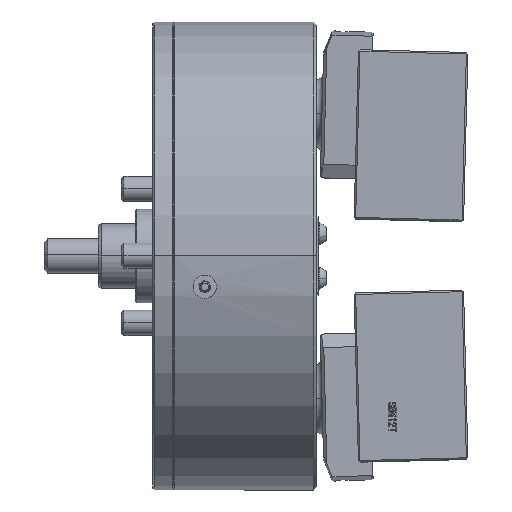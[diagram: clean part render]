
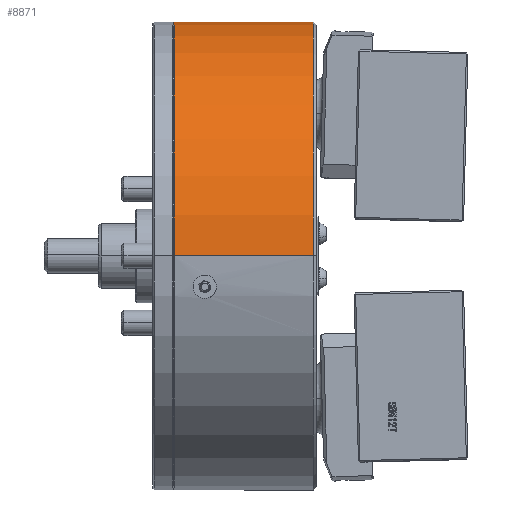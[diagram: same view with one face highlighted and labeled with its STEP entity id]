
A CAD part, top view. The second image highlights one B-rep face of the part: STEP entity #8871.
In plain terms, the highlighted cylindrical face has radius 150 mm (diameter 300 mm), a partial arc.
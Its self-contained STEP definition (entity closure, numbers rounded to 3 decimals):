
#4752 = CARTESIAN_POINT ( 'NONE',  ( -91.2, 0., 0. ) ) ;
#5124 = ORIENTED_EDGE ( 'NONE', *, *, #35755, .F. ) ;
#8319 = AXIS2_PLACEMENT_3D ( 'NONE', #4752, #31297, #8659 ) ;
#8659 = DIRECTION ( 'NONE',  ( 0., 0., -1. ) ) ;
#8871 = ADVANCED_FACE ( 'NONE', ( #11984 ), #40697, .T. ) ;
#9033 = VECTOR ( 'NONE', #44374, 1000. ) ;
#9254 = EDGE_LOOP ( 'NONE', ( #9326, #44290, #5124, #27103 ) ) ;
#9326 = ORIENTED_EDGE ( 'NONE', *, *, #47643, .T. ) ;
#11984 = FACE_OUTER_BOUND ( 'NONE', #9254, .T. ) ;
#14527 = CARTESIAN_POINT ( 'NONE',  ( 9.899, 0., 150. ) ) ;
#18092 = EDGE_CURVE ( 'NONE', #43805, #31047, #19148, .T. ) ;
#19148 = LINE ( 'NONE', #14527, #9033 ) ;
#20651 = CARTESIAN_POINT ( 'NONE',  ( -91.2, 0., 150. ) ) ;
#20792 = CIRCLE ( 'NONE', #31686, 150. ) ;
#21322 = DIRECTION ( 'NONE',  ( 1., 0., 0. ) ) ;
#22169 = AXIS2_PLACEMENT_3D ( 'NONE', #30024, #29089, #29533 ) ;
#26004 = CARTESIAN_POINT ( 'NONE',  ( -2., 0., 150. ) ) ;
#26865 = CARTESIAN_POINT ( 'NONE',  ( -2., 0., -150. ) ) ;
#27103 = ORIENTED_EDGE ( 'NONE', *, *, #27288, .F. ) ;
#27288 = EDGE_CURVE ( 'NONE', #34777, #27403, #30933, .T. ) ;
#27403 = VERTEX_POINT ( 'NONE', #26865 ) ;
#29089 = DIRECTION ( 'NONE',  ( 1., 0., 0. ) ) ;
#29533 = DIRECTION ( 'NONE',  ( 0., 0., -1. ) ) ;
#29751 = VECTOR ( 'NONE', #33782, 1000. ) ;
#29995 = CARTESIAN_POINT ( 'NONE',  ( 9.899, 0., -150. ) ) ;
#30024 = CARTESIAN_POINT ( 'NONE',  ( 9.899, 0., 0. ) ) ;
#30933 = LINE ( 'NONE', #29995, #29751 ) ;
#31047 = VERTEX_POINT ( 'NONE', #26004 ) ;
#31297 = DIRECTION ( 'NONE',  ( 1., 0., 0. ) ) ;
#31686 = AXIS2_PLACEMENT_3D ( 'NONE', #43593, #21322, #47314 ) ;
#33782 = DIRECTION ( 'NONE',  ( 1., 0., 0. ) ) ;
#34777 = VERTEX_POINT ( 'NONE', #37438 ) ;
#35755 = EDGE_CURVE ( 'NONE', #27403, #31047, #20792, .T. ) ;
#37027 = CIRCLE ( 'NONE', #8319, 150. ) ;
#37438 = CARTESIAN_POINT ( 'NONE',  ( -91.2, 0., -150. ) ) ;
#40697 = CYLINDRICAL_SURFACE ( 'NONE', #22169, 150. ) ;
#43593 = CARTESIAN_POINT ( 'NONE',  ( -2., 0., 0. ) ) ;
#43805 = VERTEX_POINT ( 'NONE', #20651 ) ;
#44290 = ORIENTED_EDGE ( 'NONE', *, *, #18092, .T. ) ;
#44374 = DIRECTION ( 'NONE',  ( 1., 0., 0. ) ) ;
#47314 = DIRECTION ( 'NONE',  ( 0., 0., -1. ) ) ;
#47643 = EDGE_CURVE ( 'NONE', #34777, #43805, #37027, .T. ) ;
